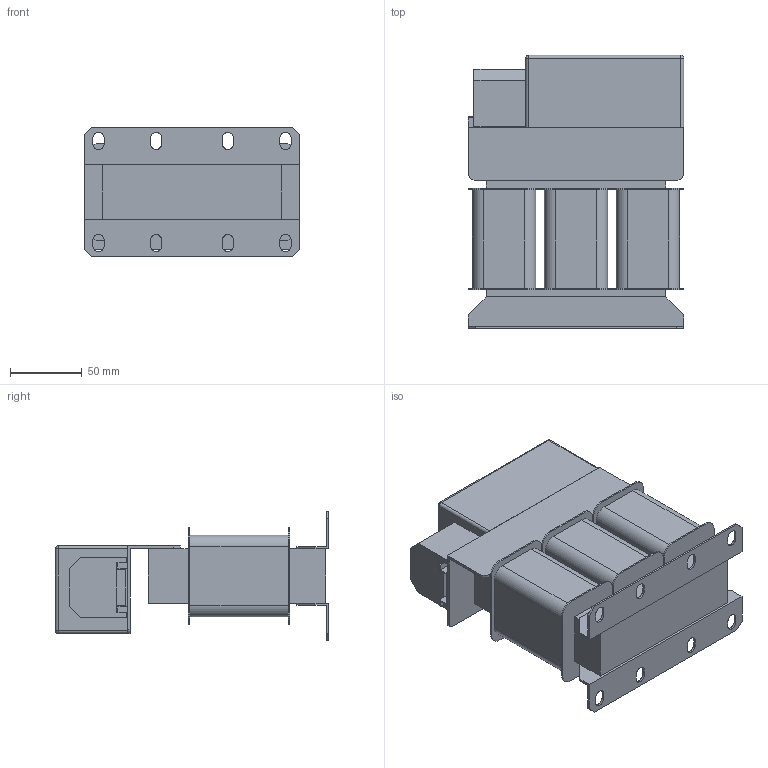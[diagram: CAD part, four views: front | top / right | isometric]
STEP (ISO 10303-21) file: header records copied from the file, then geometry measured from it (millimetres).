
FILE_DESCRIPTION(/* description */ (''),/* implementation_level */ '2;1');
FILE_NAME(/* name */ 'Sin-T4-008.stp',/* time_stamp */ '2025-03-10T15:21:00+04:00',/* author */ ('Лео'),/* organization */ (''),/* preprocessor_version */ 'ST-DEVELOPER v19.2',/* originating_system */ 'Autodesk Inventor 2024',/* authorisation */ '');
FILE_SCHEMA (('AUTOMOTIVE_DESIGN { 1 0 10303 214 3 1 1 }'));
Length unit declared in the file: millimetre
Products named in the file (1): Sin-T4-004
Bounding box: 150 x 190 x 90 mm (x, y, z)
Volume: 1209703.6 mm3; surface area: 220396.8 mm2
Topology: 14 solids, 14 shells, 212 faces, 534 edges, 350 vertices
Faces by surface type: plane 144, cylinder 64, sphere 4
Entity records: 6384 total; most frequent: CARTESIAN_POINT 1097, DIRECTION 1088, ORIENTED_EDGE 1068, EDGE_CURVE 534, LINE 406, VECTOR 406, VERTEX_POINT 350, AXIS2_PLACEMENT_3D 341
